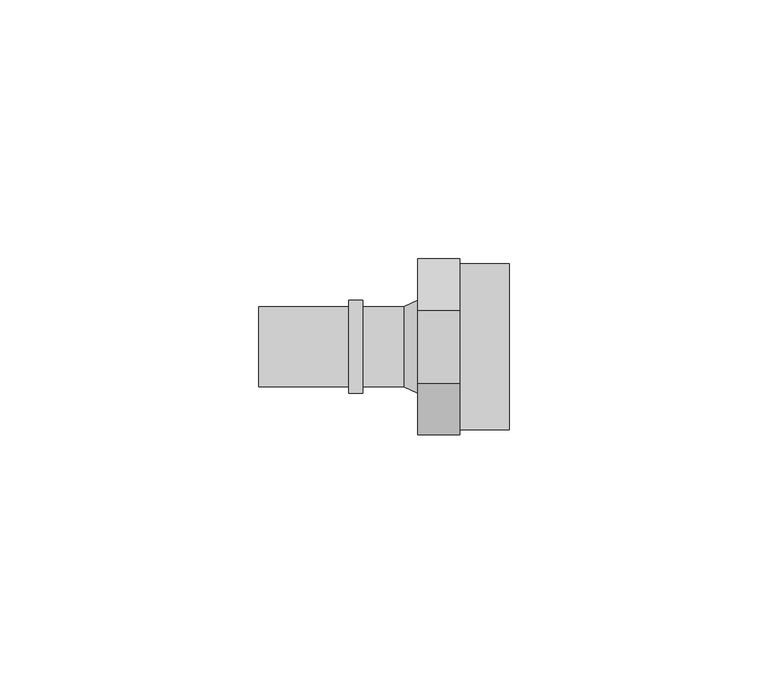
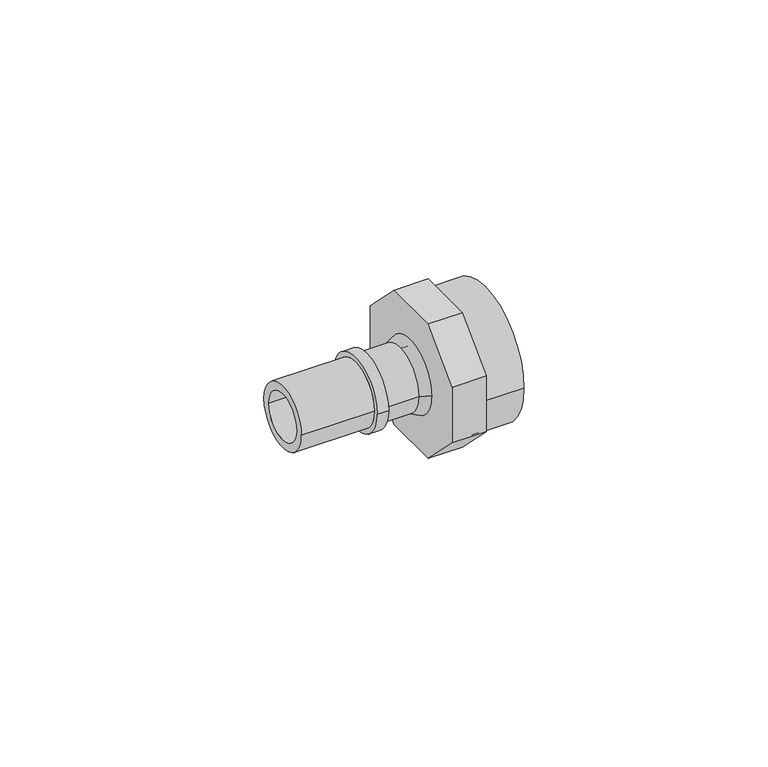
"""IFC4 building model written with IfcOpenShell, lengths in millimetres: pipe fitting geometry, FASTLOC_Adapter_LX, with internal thread : FSL A internal PL."""

from ifc_helpers import new_model, si_unit, point, frame, origin, origin_2d, place, context, project, spatial, polyline, circle_curve, trimmed, segment, composite_curve, outline, extrude, source, transform, mapped, element, save
from ifc_brep_helpers import plane_surface, cylinder_surface, revolved_surface, advanced_brep


def pipe_fitting_d68833d0(model_context):
    return source(origin(), model_context, "Body", "SolidModel", [
        extrude(outline(composite_curve([segment(trimmed(circle_curve(origin_2d(), 16.0), [point((-16.0, 0.0))], [point((16.0, 0.0))], False, "CARTESIAN"), True, "CONTINUOUS"), segment(trimmed(circle_curve(origin_2d(), 16.0), [point((16.0, 0.0))], [point((-16.0, 0.0))], False, "CARTESIAN"), True, "CONTINUOUS")], self_intersect=False), holes=[composite_curve([segment(trimmed(circle_curve(origin_2d(), 12.05), [point((-12.05, 0.0))], [point((12.05, 0.0))], True, "CARTESIAN"), True, "CONTINUOUS"), segment(trimmed(circle_curve(origin_2d(), 12.05), [point((12.05, 0.0))], [point((-12.05, 0.0))], True, "CARTESIAN"), True, "CONTINUOUS")], self_intersect=False)]), frame((8.1, 0.0, 0.0), z_axis=(1.0, 0.0, 0.0), x_axis=(0.0, 1.0, 0.0)), (0.0, 0.0, 1.0), 9.6),
        extrude(outline(polyline([(-7.0416306, -17.0), (-17.0, -7.0416306), (-17.0, 7.0416306), (-7.0416306, 17.0), (7.0416306, 17.0), (17.0, 7.0416306), (17.0, -7.0416306), (7.0416306, -17.0), (-7.0416306, -17.0)]), holes=[composite_curve([segment(trimmed(circle_curve(origin_2d(), 5.75), [point((-5.75, 0.0))], [point((5.75, 0.0))], True, "CARTESIAN"), True, "CONTINUOUS"), segment(trimmed(circle_curve(origin_2d(), 5.75), [point((5.75, 0.0))], [point((-5.75, 0.0))], True, "CARTESIAN"), True, "CONTINUOUS")], self_intersect=False)]), frame((0.0, 0.0, 0.0), z_axis=(1.0, 0.0, 0.0), x_axis=(0.0, 1.0, 0.0)), (0.0, 0.0, 1.0), 8.1),
        advanced_brep(
        [(-13.3, 7.75, 0.0), (-13.3, -7.75, 0.0), (-30.7, -7.75, 0.0), (-30.7, 7.75, 0.0), (-10.6, 9.0, 0.0), (-10.6, -9.0, 0.0), (-13.3, -9.0, 0.0), (-13.3, 9.0, 0.0), (-2.7, 7.75, 0.0), (-2.7, -7.75, 0.0), (-10.6, -7.75, 0.0), (-10.6, 7.75, 0.0), (0.0, 9.0, 0.0), (0.0, -9.0, 0.0), (-30.7, 5.75, 0.0), (-30.7, -5.75, 0.0), (0.0, -5.75, 0.0), (0.0, 5.75, 0.0)],
        [
            (0, 1, circle_curve(frame((-13.3, 0.0, 0.0), z_axis=(-1.0, 0.0, 0.0), x_axis=(0.0, -1.0, 0.0)), 7.75)),
            (1, 2),
            (2, 3, circle_curve(frame((-30.7, 0.0, 0.0), z_axis=(1.0, 0.0, 0.0), x_axis=(0.0, -1.0, 0.0)), 7.75)),
            (3, 0),
            (4, 5, circle_curve(frame((-10.6, 0.0, 0.0), z_axis=(-1.0, 0.0, 0.0), x_axis=(0.0, -1.0, 0.0)), 9.0)),
            (5, 6),
            (6, 7, circle_curve(frame((-13.3, 0.0, 0.0), z_axis=(1.0, 0.0, 0.0), x_axis=(0.0, -1.0, 0.0)), 9.0)),
            (7, 4),
            (8, 9, circle_curve(frame((-2.7, 0.0, 0.0), z_axis=(-1.0, 0.0, 0.0), x_axis=(0.0, -1.0, 0.0)), 7.75)),
            (9, 10),
            (10, 11, circle_curve(frame((-10.6, 0.0, 0.0), z_axis=(1.0, 0.0, 0.0), x_axis=(0.0, -1.0, 0.0)), 7.75)),
            (11, 8),
            (12, 13, circle_curve(frame((0.0, 0.0, 0.0), z_axis=(-1.0, 0.0, 0.0), x_axis=(0.0, -1.0, 0.0)), 9.0)),
            (13, 9),
            (8, 12),
            (14, 15, circle_curve(frame((-30.7, 0.0, 0.0), z_axis=(-1.0, 0.0, 0.0), x_axis=(0.0, -1.0, 0.0)), 5.75)),
            (15, 16),
            (16, 17, circle_curve(frame((0.0, 0.0, 0.0), z_axis=(1.0, 0.0, 0.0), x_axis=(0.0, -1.0, 0.0)), 5.75)),
            (17, 14),
            (2, 3, circle_curve(frame((-30.7, 0.0, 0.0), z_axis=(-1.0, 0.0, 0.0), x_axis=(0.0, 1.0, 0.0)), 7.75)),
            (14, 15, circle_curve(frame((-30.7, 0.0, 0.0), z_axis=(1.0, 0.0, 0.0), x_axis=(0.0, 1.0, 0.0)), 5.75)),
            (1, 0, circle_curve(frame((-13.3, 0.0, 0.0), z_axis=(-1.0, 0.0, 0.0), x_axis=(0.0, 1.0, 0.0)), 7.75)),
            (6, 7, circle_curve(frame((-13.3, 0.0, 0.0), z_axis=(-1.0, 0.0, 0.0), x_axis=(0.0, 1.0, 0.0)), 9.0)),
            (5, 4, circle_curve(frame((-10.6, 0.0, 0.0), z_axis=(-1.0, 0.0, 0.0), x_axis=(0.0, 1.0, 0.0)), 9.0)),
            (10, 11, circle_curve(frame((-10.6, 0.0, 0.0), z_axis=(-1.0, 0.0, 0.0), x_axis=(0.0, 1.0, 0.0)), 7.75)),
            (9, 8, circle_curve(frame((-2.7, 0.0, 0.0), z_axis=(-1.0, 0.0, 0.0), x_axis=(0.0, 1.0, 0.0)), 7.75)),
            (13, 12, circle_curve(frame((0.0, 0.0, 0.0), z_axis=(-1.0, 0.0, 0.0), x_axis=(0.0, 1.0, 0.0)), 9.0)),
            (16, 17, circle_curve(frame((0.0, 0.0, 0.0), z_axis=(-1.0, 0.0, 0.0), x_axis=(0.0, 1.0, 0.0)), 5.75)),
        ],
        [
            cylinder_surface(frame((0.0, 0.0, 0.0), z_axis=(1.0, 0.0, 0.0), x_axis=(0.0, -1.0, 0.0)), 7.75),
            cylinder_surface(frame((0.0, 0.0, 0.0), z_axis=(1.0, 0.0, 0.0), x_axis=(0.0, -1.0, 0.0)), 9.0),
            revolved_surface(polyline([(-2.7, -7.75, 0.0), (0.0, -9.0, 0.0)]), (0.0, 0.0, 0.0), (1.0, 0.0, 0.0)),
            revolved_surface(polyline([(0.0, -5.75, 0.0), (-30.7, -5.75, 0.0)]), (0.0, 0.0, 0.0), (1.0, 0.0, 0.0)),
            plane_surface(frame((-30.7, 0.0, 0.0), z_axis=(-1.0, 0.0, 0.0), x_axis=(0.0, 1.0, 0.0))),
            cylinder_surface(frame((0.0, 0.0, 0.0), z_axis=(1.0, 0.0, 0.0), x_axis=(0.0, 1.0, 0.0)), 7.75),
            plane_surface(frame((-13.3, 0.0, 0.0), z_axis=(-1.0, 0.0, 0.0), x_axis=(0.0, 1.0, 0.0))),
            cylinder_surface(frame((0.0, 0.0, 0.0), z_axis=(1.0, 0.0, 0.0), x_axis=(0.0, 1.0, 0.0)), 9.0),
            plane_surface(frame((-10.6, 0.0, 0.0), z_axis=(1.0, 0.0, 0.0), x_axis=(0.0, 1.0, 0.0))),
            revolved_surface(polyline([(-2.7, 7.75, 0.0), (0.0, 9.0, 0.0)]), (0.0, 0.0, 0.0), (1.0, 0.0, 0.0)),
            plane_surface(frame((0.0, 0.0, 0.0), z_axis=(1.0, 0.0, 0.0), x_axis=(0.0, 1.0, 0.0))),
            revolved_surface(polyline([(0.0, 5.75, 0.0), (-30.7, 5.75, 0.0)]), (0.0, 0.0, 0.0), (1.0, 0.0, 0.0)),
        ],
        [
            (0, [[1, 2, 3, 4]]),
            (1, [[5, 6, 7, 8]]),
            (0, [[9, 10, 11, 12]]),
            (2, [[13, 14, -9, 15]]),
            (3, [[16, 17, 18, 19]]),
            (4, [[20, -3], [21, -16]]),
            (5, [[22, -4, -20, -2]]),
            (6, [[23, -7], [-22, -1]]),
            (7, [[24, -8, -23, -6]]),
            (8, [[-24, -5], [25, -11]]),
            (5, [[26, -12, -25, -10]]),
            (9, [[27, -15, -26, -14]]),
            (10, [[-27, -13], [28, -18]]),
            (11, [[-21, -19, -28, -17]]),
        ],
    ),
    ])


if __name__ == "__main__":
    model = new_model("IFC4")
    model_context = context("Model", 3, world=origin())
    ifc_project = project(units=[si_unit("LENGTHUNIT", "METRE", prefix="MILLI")], contexts=[model_context])
    site = spatial("IfcSite", under=ifc_project)
    building = spatial("IfcBuilding", under=site)
    placement = place(None, origin())
    pipe_fitting_shape = pipe_fitting_d68833d0(model_context)
    element("IfcPipeFitting", 1, ObjectType="FASTLOC_Adapter_LX, with internal thread : FSL A internal PL", at=placement, inside=building, context=model_context, shape_type="MappedRepresentation", body=[
        mapped(pipe_fitting_shape, transform((0.0, 0.0, 0.0), x_axis=(1.0, 0.0, 0.0), y_axis=(0.0, 1.0, 0.0), z_axis=(0.0, 0.0, 1.0))),
    ])
    save(model, "model.ifc")
